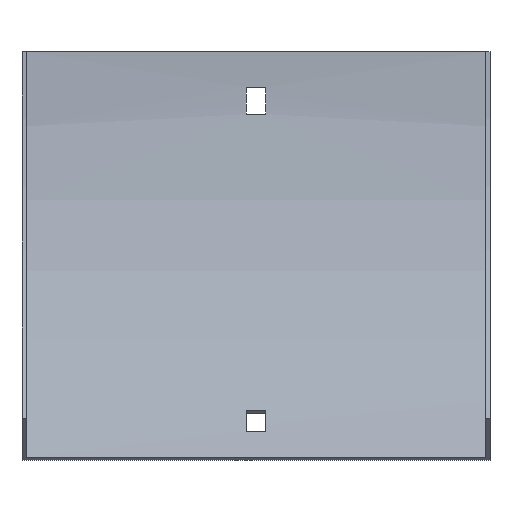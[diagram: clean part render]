
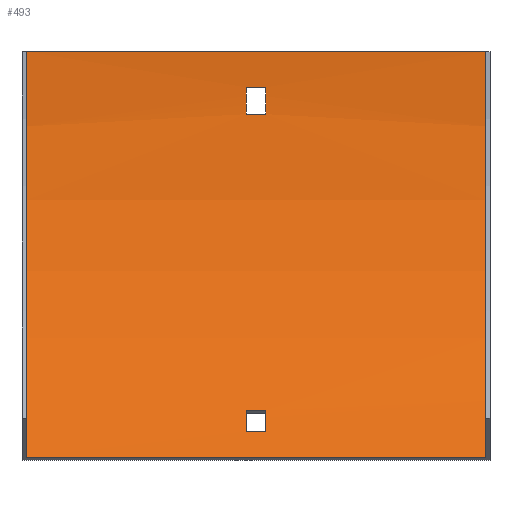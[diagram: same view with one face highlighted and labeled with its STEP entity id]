
A CAD part, front view. The second image highlights one B-rep face of the part: STEP entity #493.
In plain terms, the highlighted cylindrical face has radius 192.5 mm (diameter 385 mm), a partial arc.
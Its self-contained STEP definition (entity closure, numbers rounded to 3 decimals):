
#6 = CIRCLE ( 'NONE', #259, 192.5 ) ;
#8 = CARTESIAN_POINT ( 'NONE',  ( -3.25, -43.845, -120.456 ) ) ;
#11 = EDGE_CURVE ( 'NONE', #202, #442, #334, .T. ) ;
#18 = EDGE_CURVE ( 'NONE', #231, #606, #366, .T. ) ;
#19 = FACE_OUTER_BOUND ( 'NONE', #482, .T. ) ;
#32 = DIRECTION ( 'NONE',  ( 0., 0., -1. ) ) ;
#44 = LINE ( 'NONE', #555, #141 ) ;
#45 = VERTEX_POINT ( 'NONE', #460 ) ;
#56 = CARTESIAN_POINT ( 'NONE',  ( 78.5, -194., 0. ) ) ;
#57 = CARTESIAN_POINT ( 'NONE',  ( 78.5, -43.845, -120.456 ) ) ;
#58 = VECTOR ( 'NONE', #330, 1000. ) ;
#66 = VECTOR ( 'NONE', #83, 1000. ) ;
#67 = CARTESIAN_POINT ( 'NONE',  ( 77., -194., 0. ) ) ;
#69 = CIRCLE ( 'NONE', #284, 192.5 ) ;
#79 = EDGE_CURVE ( 'NONE', #442, #281, #118, .T. ) ;
#83 = DIRECTION ( 'NONE',  ( -1., 0., 0. ) ) ;
#96 = VERTEX_POINT ( 'NONE', #387 ) ;
#118 = LINE ( 'NONE', #57, #381 ) ;
#120 = DIRECTION ( 'NONE',  ( 1., 0., 0. ) ) ;
#141 = VECTOR ( 'NONE', #553, 1000. ) ;
#144 = VERTEX_POINT ( 'NONE', #467 ) ;
#145 = DIRECTION ( 'NONE',  ( -1., 0., 0. ) ) ;
#162 = ORIENTED_EDGE ( 'NONE', *, *, #604, .F. ) ;
#170 = CARTESIAN_POINT ( 'NONE',  ( 78.5, -1.874, -12. ) ) ;
#175 = DIRECTION ( 'NONE',  ( 0., 0., 1. ) ) ;
#181 = CARTESIAN_POINT ( 'NONE',  ( 77., -57.882, -136.118 ) ) ;
#194 = DIRECTION ( 'NONE',  ( 0., 0., 1. ) ) ;
#196 = ORIENTED_EDGE ( 'NONE', *, *, #378, .F. ) ;
#202 = VERTEX_POINT ( 'NONE', #547 ) ;
#203 = LINE ( 'NONE', #565, #417 ) ;
#208 = ORIENTED_EDGE ( 'NONE', *, *, #464, .T. ) ;
#211 = VERTEX_POINT ( 'NONE', #369 ) ;
#216 = VERTEX_POINT ( 'NONE', #503 ) ;
#228 = DIRECTION ( 'NONE',  ( 1., 0., 0. ) ) ;
#231 = VERTEX_POINT ( 'NONE', #506 ) ;
#240 = DIRECTION ( 'NONE',  ( 0., 0., 1. ) ) ;
#241 = ORIENTED_EDGE ( 'NONE', *, *, #584, .F. ) ;
#247 = DIRECTION ( 'NONE',  ( -1., 0., 0. ) ) ;
#250 = DIRECTION ( 'NONE',  ( -1., 0., 0. ) ) ;
#256 = EDGE_CURVE ( 'NONE', #96, #211, #425, .T. ) ;
#259 = AXIS2_PLACEMENT_3D ( 'NONE', #574, #399, #443 ) ;
#264 = DIRECTION ( 'NONE',  ( -1., 0., 0. ) ) ;
#265 = ORIENTED_EDGE ( 'NONE', *, *, #484, .T. ) ;
#281 = VERTEX_POINT ( 'NONE', #374 ) ;
#283 = CARTESIAN_POINT ( 'NONE',  ( 77., -1.5, 0. ) ) ;
#284 = AXIS2_PLACEMENT_3D ( 'NONE', #67, #498, #350 ) ;
#287 = EDGE_CURVE ( 'NONE', #211, #216, #44, .T. ) ;
#298 = FACE_BOUND ( 'NONE', #437, .T. ) ;
#300 = CARTESIAN_POINT ( 'NONE',  ( 3.25, -194., 0. ) ) ;
#325 = EDGE_CURVE ( 'NONE', #352, #45, #431, .T. ) ;
#328 = CARTESIAN_POINT ( 'NONE',  ( 77., -57.882, -136.118 ) ) ;
#330 = DIRECTION ( 'NONE',  ( -1., 0., 0. ) ) ;
#332 = ORIENTED_EDGE ( 'NONE', *, *, #256, .F. ) ;
#334 = CIRCLE ( 'NONE', #434, 192.5 ) ;
#337 = CIRCLE ( 'NONE', #471, 192.5 ) ;
#350 = DIRECTION ( 'NONE',  ( 0., 0., 1. ) ) ;
#352 = VERTEX_POINT ( 'NONE', #328 ) ;
#357 = ORIENTED_EDGE ( 'NONE', *, *, #79, .T. ) ;
#363 = ORIENTED_EDGE ( 'NONE', *, *, #18, .T. ) ;
#366 = LINE ( 'NONE', #283, #66 ) ;
#369 = CARTESIAN_POINT ( 'NONE',  ( -3.25, -2.649, -21. ) ) ;
#374 = CARTESIAN_POINT ( 'NONE',  ( 3.25, -43.845, -120.456 ) ) ;
#377 = EDGE_CURVE ( 'NONE', #352, #231, #69, .T. ) ;
#378 = EDGE_CURVE ( 'NONE', #216, #144, #6, .T. ) ;
#381 = VECTOR ( 'NONE', #495, 1000. ) ;
#385 = ORIENTED_EDGE ( 'NONE', *, *, #11, .T. ) ;
#387 = CARTESIAN_POINT ( 'NONE',  ( -3.25, -1.874, -12. ) ) ;
#388 = EDGE_LOOP ( 'NONE', ( #265, #385, #357, #208 ) ) ;
#390 = VERTEX_POINT ( 'NONE', #494 ) ;
#394 = AXIS2_PLACEMENT_3D ( 'NONE', #56, #247, #533 ) ;
#399 = DIRECTION ( 'NONE',  ( 1., 0., 0. ) ) ;
#417 = VECTOR ( 'NONE', #145, 1000. ) ;
#425 = CIRCLE ( 'NONE', #507, 192.5 ) ;
#431 = LINE ( 'NONE', #181, #58 ) ;
#434 = AXIS2_PLACEMENT_3D ( 'NONE', #599, #120, #32 ) ;
#436 = CIRCLE ( 'NONE', #447, 192.5 ) ;
#437 = EDGE_LOOP ( 'NONE', ( #332, #162, #196, #519 ) ) ;
#442 = VERTEX_POINT ( 'NONE', #8 ) ;
#443 = DIRECTION ( 'NONE',  ( 0., 0., -1. ) ) ;
#447 = AXIS2_PLACEMENT_3D ( 'NONE', #549, #228, #175 ) ;
#460 = CARTESIAN_POINT ( 'NONE',  ( -77., -57.882, -136.118 ) ) ;
#464 = EDGE_CURVE ( 'NONE', #281, #390, #337, .T. ) ;
#467 = CARTESIAN_POINT ( 'NONE',  ( 3.25, -1.874, -12. ) ) ;
#471 = AXIS2_PLACEMENT_3D ( 'NONE', #300, #250, #194 ) ;
#476 = DIRECTION ( 'NONE',  ( -1., 0., 0. ) ) ;
#482 = EDGE_LOOP ( 'NONE', ( #241, #556, #597, #363 ) ) ;
#484 = EDGE_CURVE ( 'NONE', #390, #202, #203, .T. ) ;
#485 = CARTESIAN_POINT ( 'NONE',  ( -3.25, -194., 0. ) ) ;
#487 = FACE_BOUND ( 'NONE', #388, .T. ) ;
#490 = CYLINDRICAL_SURFACE ( 'NONE', #394, 192.5 ) ;
#493 = ADVANCED_FACE ( 'NONE', ( #298, #19, #487 ), #490, .F. ) ;
#494 = CARTESIAN_POINT ( 'NONE',  ( 3.25, -49.661, -127.368 ) ) ;
#495 = DIRECTION ( 'NONE',  ( 1., 0., 0. ) ) ;
#498 = DIRECTION ( 'NONE',  ( 1., 0., 0. ) ) ;
#503 = CARTESIAN_POINT ( 'NONE',  ( 3.25, -2.649, -21. ) ) ;
#506 = CARTESIAN_POINT ( 'NONE',  ( 77., -1.5, 0. ) ) ;
#507 = AXIS2_PLACEMENT_3D ( 'NONE', #485, #476, #240 ) ;
#519 = ORIENTED_EDGE ( 'NONE', *, *, #287, .F. ) ;
#525 = VECTOR ( 'NONE', #264, 1000. ) ;
#533 = DIRECTION ( 'NONE',  ( 0., 0., 1. ) ) ;
#538 = LINE ( 'NONE', #170, #525 ) ;
#546 = CARTESIAN_POINT ( 'NONE',  ( -77., -1.5, 0. ) ) ;
#547 = CARTESIAN_POINT ( 'NONE',  ( -3.25, -49.661, -127.368 ) ) ;
#549 = CARTESIAN_POINT ( 'NONE',  ( -77., -194., 0. ) ) ;
#553 = DIRECTION ( 'NONE',  ( 1., 0., 0. ) ) ;
#555 = CARTESIAN_POINT ( 'NONE',  ( 78.5, -2.649, -21. ) ) ;
#556 = ORIENTED_EDGE ( 'NONE', *, *, #325, .F. ) ;
#565 = CARTESIAN_POINT ( 'NONE',  ( 78.5, -49.661, -127.368 ) ) ;
#574 = CARTESIAN_POINT ( 'NONE',  ( 3.25, -194., 0. ) ) ;
#584 = EDGE_CURVE ( 'NONE', #45, #606, #436, .T. ) ;
#597 = ORIENTED_EDGE ( 'NONE', *, *, #377, .T. ) ;
#599 = CARTESIAN_POINT ( 'NONE',  ( -3.25, -194., 0. ) ) ;
#604 = EDGE_CURVE ( 'NONE', #144, #96, #538, .T. ) ;
#606 = VERTEX_POINT ( 'NONE', #546 ) ;
